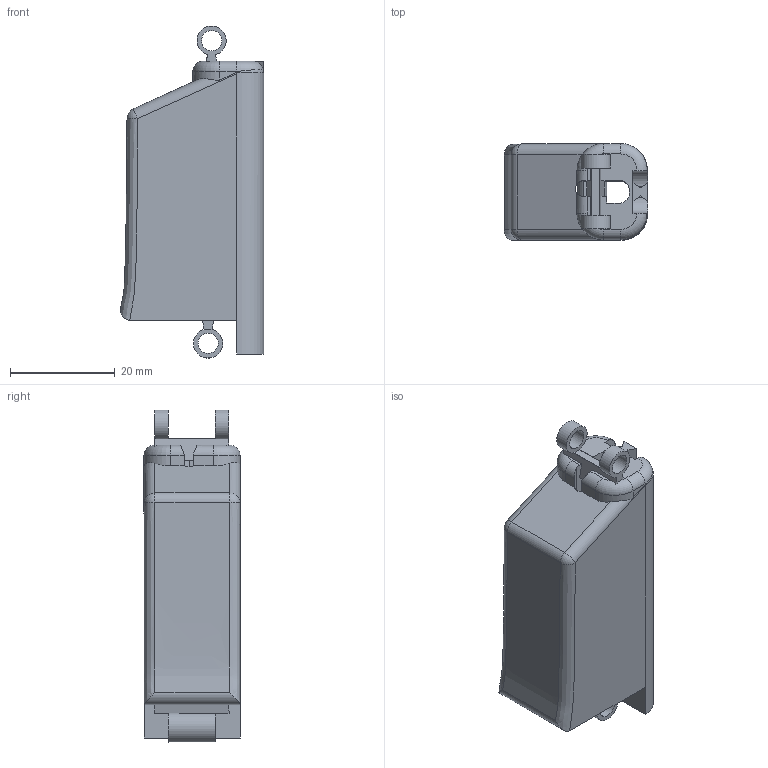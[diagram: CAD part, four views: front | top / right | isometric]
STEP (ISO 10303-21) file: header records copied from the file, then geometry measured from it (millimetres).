
FILE_DESCRIPTION(/* description */ ('STEP AP242 Edition 2','CAx-IF Rec.Pracs.---Representation and Presentation of Product Manufacturing Information (PMI)---4.0---2014-10-13','CAx-IF Rec.Pracs.---3D Tessellated Geometry---0.4---2014-09-14','2;1','CAx-IF Rec.Pracs.---User Defined Attributes---1.5---2016-08-15'),/* implementation_level */ '2;1');
FILE_NAME(/* name */ 'Assembly 1 - Pinky Bih',/* time_stamp */ '2026-06-19T18:21:09Z',/* author */ (''),/* organization */ (''),/* preprocessor_version */ 'ST-DEVELOPER v20',/* originating_system */ 'ONSHAPE BY PTC INC, 1.216',/* authorisation */ ' ');
FILE_SCHEMA (('AP242_MANAGED_MODEL_BASED_3D_ENGINEERING_MIM_LF { 1 0 10303 442 3 1 4 }'));
Length unit declared in the file: metre
Products named in the file (1): Pinky Bih
Bounding box: 27.41 x 18.43 x 63.54 mm (x, y, z)
Volume: 20643.7 mm3; surface area: 6943.5 mm2
Topology: 1 solids, 1 shells, 94 faces, 271 edges, 174 vertices
Faces by surface type: plane 53, cylinder 28, torus 6, bspline 3, sphere 2, cone 2
Full cylindrical faces by diameter (mm): 3.865 x3
Entity records: 3296 total; most frequent: CARTESIAN_POINT 795, ORIENTED_EDGE 532, DIRECTION 504, EDGE_CURVE 266, VERTEX_POINT 174, AXIS2_PLACEMENT_3D 169, LINE 166, VECTOR 166
